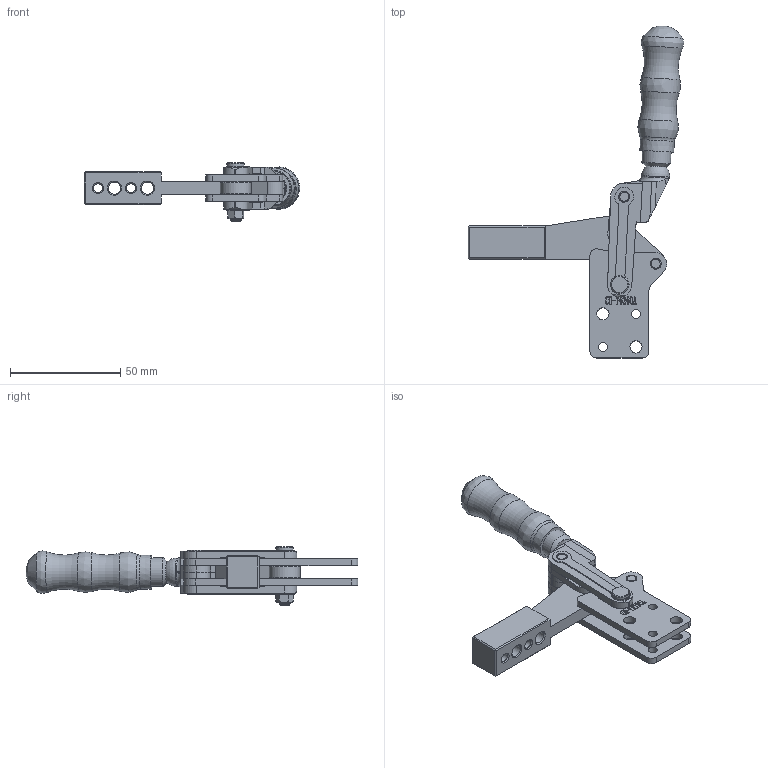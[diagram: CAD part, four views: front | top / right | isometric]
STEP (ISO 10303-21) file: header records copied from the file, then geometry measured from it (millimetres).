
FILE_DESCRIPTION(/* description */ ('STEP AP203'),/* implementation_level */ '2;1');
FILE_NAME(/* name */ 'E:\CAD_CLAMPS\Heavy duty weldables\CH-70200A_DODAC\CH-70200A_ZAMKNIETY.stp',/* time_stamp */ '2019-03-11T14:19:33+01:00',/* author */ ('Admin'),/* organization */ ('Î¢ÈíÖÐ¹ú'),/* preprocessor_version */ 'ST-DEVELOPER v17.2',/* originating_system */ 'Autodesk Inventor 2019',/* authorisation */ '');
FILE_SCHEMA (('AUTOMOTIVE_DESIGN { 1 0 10303 214 3 1 1 }'));
Products named in the file (13): CH-70200A_ZAMKNIETY; µ××ù·´_Ä¬ÈÏ; ÂÝ¸Ë_Ä¬ÈÏ; ³¤Öá_Ä¬ÈÏ; m5ÂÝÄ¸_Ä¬ÈÏ; Ñ¹°Ñ_Ä¬ÈÏ; ÊÖ±ú_Ä¬ÈÏ; ÊÖ±úÌ×_Ä¬ÈÏ; ti_Ä¬ÈÏ; ¸ôÌ×_Ä¬ÈÏ; µ××ùÕýÃæ_Ä¬È
Ï; ¶ÎÖá_Ä¬ÈÏ; Á¬¸Ë_Ä¬ÈÏ
Assembly tree (14 placements, depth 2):
  CH-70200A_ZAMKNIETY
    µ××ù·´_Ä¬ÈÏ
    ÂÝ¸Ë_Ä¬ÈÏ
    ³¤Öá_Ä¬ÈÏ
    m5ÂÝÄ¸_Ä¬ÈÏ
    ¶ÎÖá_Ä¬ÈÏ  x2
    Á¬¸Ë_Ä¬ÈÏ  x2
    Ñ¹°Ñ_Ä¬ÈÏ
    ÊÖ±ú_Ä¬ÈÏ
    ÊÖ±úÌ×_Ä¬ÈÏ
    ti_Ä¬ÈÏ
    ¸ôÌ×_Ä¬ÈÏ
    µ××ùÕýÃæ_Ä¬È
Ï
Bounding box: 97.91 x 150.82 x 26.5 mm (x, y, z)
Volume: 43660.7 mm3; surface area: 30049.9 mm2
Topology: 15 solids, 15 shells, 922 faces, 2567 edges, 1701 vertices
Faces by surface type: plane 588, cylinder 193, bspline 89, cone 42, torus 9, sphere 1
Full cylindrical faces by diameter (mm): 0.399 x1, 2.5 x1, 4 x6, 5 x39, 5.2 x1, 5.5 x6, 8 x1, 13 x1, 14 x1
Entity records: 43963 total; most frequent: CARTESIAN_POINT 20266, ORIENTED_EDGE 5062, DIRECTION 4598, EDGE_CURVE 2531, VERTEX_POINT 1677, AXIS2_PLACEMENT_3D 1538, LINE 1522, VECTOR 1522
